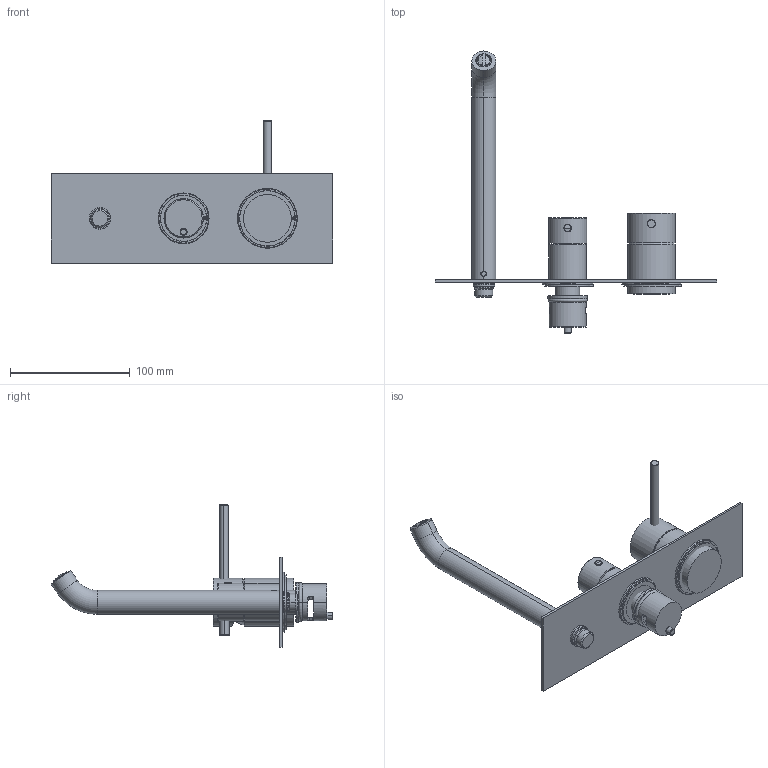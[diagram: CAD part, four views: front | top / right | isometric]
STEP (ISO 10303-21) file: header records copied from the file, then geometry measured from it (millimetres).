
FILE_DESCRIPTION((''),'2;1');
FILE_NAME('69528V221_SW0001','2023-06-05T14:36:27',('volponeff'),(''),'CREO PARAMETRIC BY PTC INC, 2022014','CREO PARAMETRIC BY PTC INC, 2022014','');
FILE_SCHEMA(('CONFIG_CONTROL_DESIGN'));
Length unit declared in the file: millimetre
Products named in the file (1): 69528V221_SW0001
Bounding box: 235 x 235.63 x 119 mm (x, y, z)
Surface area: 88830.5 mm2 (no closed solid volume)
Topology: 0 solids, 28 shells, 198 faces, 873 edges, 698 vertices
Faces by surface type: cylinder 77, plane 62, torus 33, cone 20, sphere 4, bspline 2
Entity records: 9747 total; most frequent: CARTESIAN_POINT 2667, DIRECTION 1625, ORIENTED_EDGE 1211, EDGE_CURVE 871, VERTEX_POINT 698, AXIS2_PLACEMENT_3D 674, CIRCLE 478, VECTOR 277
